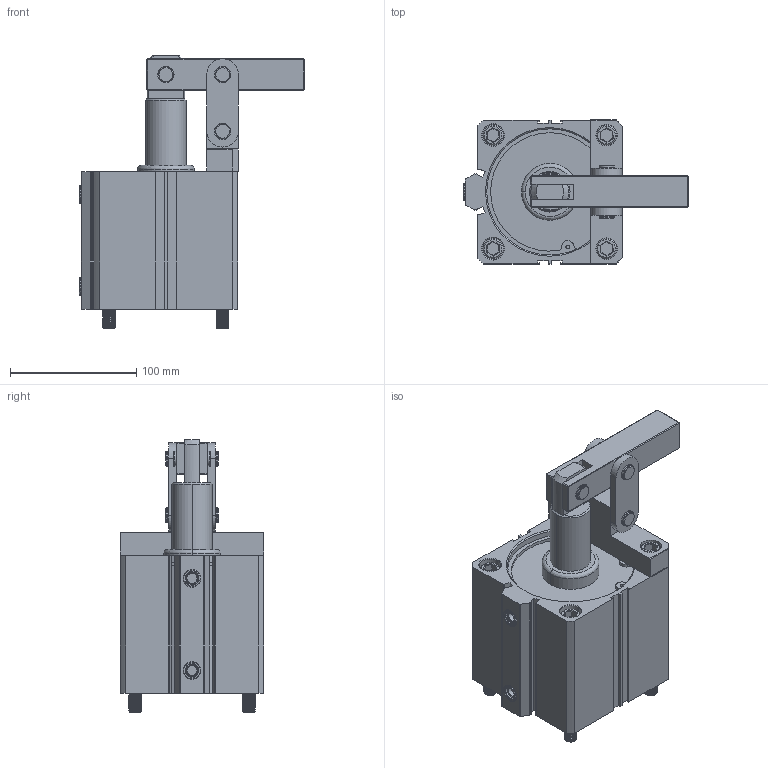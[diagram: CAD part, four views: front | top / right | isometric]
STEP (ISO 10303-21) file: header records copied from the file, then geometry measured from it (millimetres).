
FILE_DESCRIPTION(('FreeCAD Model'),'2;1');
FILE_NAME('Open CASCADE Shape Model','2021-08-17T16:57:38',('Author'),( ''),'Open CASCADE STEP processor 7.4','FreeCAD','Unknown');
FILE_SCHEMA(('AUTOMOTIVE_DESIGN { 1 0 10303 214 1 1 1 1 }'));
Length unit declared in the file: millimetre
Products named in the file (10): PLP-MS100; SOLID001; SOLID002; SOLID003; SOLID004; SOLID005; SOLID006; SOLID008; SOLID010; SOLID012
Assembly tree (12 placements, depth 2):
  PLP-MS100
    SOLID001
    SOLID002  x2
    SOLID003
    SOLID004  x2
    SOLID005
    SOLID006
    SOLID008  x2
    SOLID010
    SOLID012
Bounding box: 178.5 x 114 x 215.8 mm (x, y, z)
Volume: 1122287.5 mm3; surface area: 292600.3 mm2
Topology: 20 solids, 20 shells, 905 faces, 3264 edges, 5443 vertices
Faces by surface type: cylinder 469, plane 271, cone 101, bspline 52, torus 12
Entity records: 96174 total; most frequent: CARTESIAN_POINT 54968, DIRECTION 7283, LINE 3848, VECTOR 3848, ORIENTED_EDGE 3380, PCURVE 3380, DEFINITIONAL_REPRESENTATION 3380, EDGE_CURVE 1690
